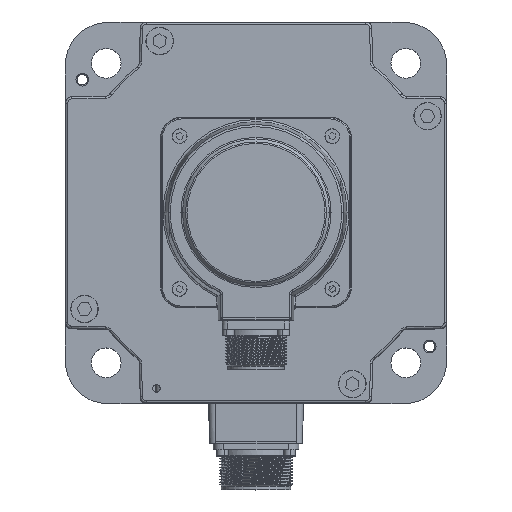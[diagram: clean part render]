
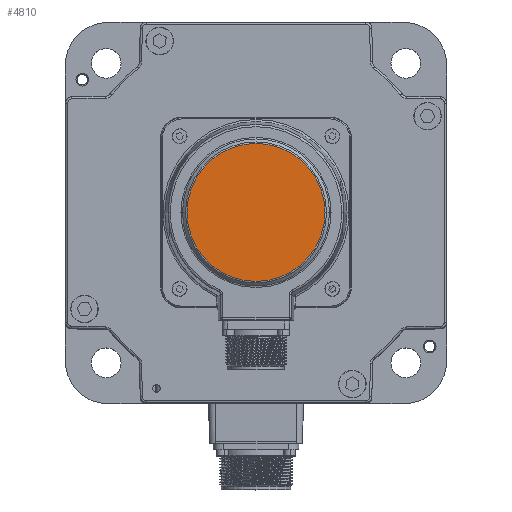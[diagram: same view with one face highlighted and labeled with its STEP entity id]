
A CAD part, top view. The second image highlights one B-rep face of the part: STEP entity #4810.
In plain terms, the highlighted planar face has unit normal (0, 0, 1).
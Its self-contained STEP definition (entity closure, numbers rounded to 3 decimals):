
#719 = AXIS2_PLACEMENT_3D ( 'NONE', #4235, #57993, #23724 ) ;
#2918 = ORIENTED_EDGE ( 'NONE', *, *, #25210, .T. ) ;
#4235 = CARTESIAN_POINT ( 'NONE',  ( 0., 0., 46.2 ) ) ;
#4810 = ADVANCED_FACE ( 'NONE', ( #9012 ), #48080, .T. ) ;
#9012 = FACE_OUTER_BOUND ( 'NONE', #45677, .T. ) ;
#9280 = ORIENTED_EDGE ( 'NONE', *, *, #47129, .T. ) ;
#10489 = CARTESIAN_POINT ( 'NONE',  ( -32.586, 0., 46.2 ) ) ;
#18136 = DIRECTION ( 'NONE',  ( -1., 0., 0. ) ) ;
#21561 = CARTESIAN_POINT ( 'NONE',  ( 32.586, 0., 46.2 ) ) ;
#23724 = DIRECTION ( 'NONE',  ( -1., 0., 0. ) ) ;
#25210 = EDGE_CURVE ( 'NONE', #49849, #27239, #36155, .T. ) ;
#27239 = VERTEX_POINT ( 'NONE', #21561 ) ;
#27573 = CARTESIAN_POINT ( 'NONE',  ( 0., 0., 46.2 ) ) ;
#36155 = CIRCLE ( 'NONE', #49480, 32.586 ) ;
#37974 = CARTESIAN_POINT ( 'NONE',  ( 0., 0., 46.2 ) ) ;
#38350 = AXIS2_PLACEMENT_3D ( 'NONE', #37974, #62004, #18136 ) ;
#45677 = EDGE_LOOP ( 'NONE', ( #2918, #9280 ) ) ;
#47129 = EDGE_CURVE ( 'NONE', #27239, #49849, #62910, .T. ) ;
#48080 = PLANE ( 'NONE',  #719 ) ;
#49480 = AXIS2_PLACEMENT_3D ( 'NONE', #27573, #56402, #51285 ) ;
#49849 = VERTEX_POINT ( 'NONE', #10489 ) ;
#51285 = DIRECTION ( 'NONE',  ( -1., 0., 0. ) ) ;
#56402 = DIRECTION ( 'NONE',  ( 0., 0., 1. ) ) ;
#57993 = DIRECTION ( 'NONE',  ( 0., 0., 1. ) ) ;
#62004 = DIRECTION ( 'NONE',  ( 0., 0., 1. ) ) ;
#62910 = CIRCLE ( 'NONE', #38350, 32.586 ) ;
